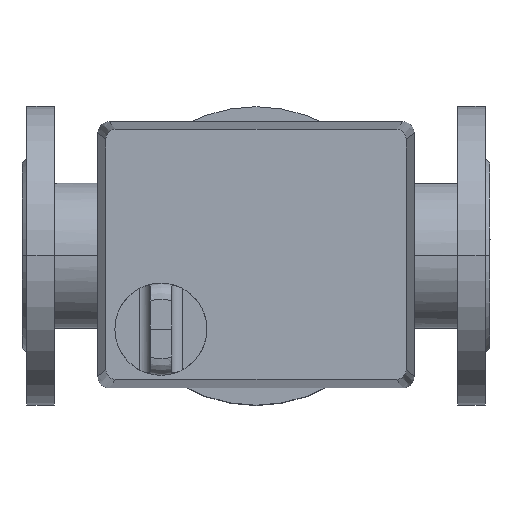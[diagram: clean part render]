
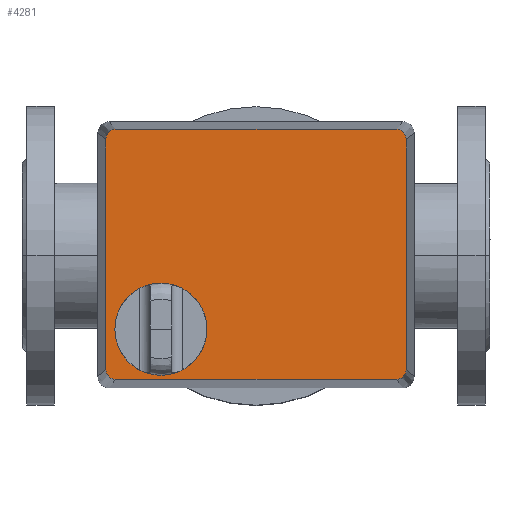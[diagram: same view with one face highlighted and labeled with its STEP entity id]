
A CAD part, top view. The second image highlights one B-rep face of the part: STEP entity #4281.
In plain terms, the highlighted planar face has unit normal (0, 0, 1).
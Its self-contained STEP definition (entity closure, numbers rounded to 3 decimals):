
#360=LINE('',#7379,#604);
#361=LINE('',#7383,#605);
#362=LINE('',#7387,#606);
#363=LINE('',#7391,#607);
#604=VECTOR('',#5968,304.8);
#605=VECTOR('',#5971,304.8);
#606=VECTOR('',#5974,304.8);
#607=VECTOR('',#5977,304.8);
#1069=FACE_OUTER_BOUND('',#1379,.T.);
#1379=EDGE_LOOP('',(#3562,#3563,#3564,#3565,#3566,#3567,#3568,#3569));
#1684=CIRCLE('',#4786,6.);
#1685=CIRCLE('',#4787,6.);
#1686=CIRCLE('',#4788,6.);
#1687=CIRCLE('',#4789,6.);
#2046=VERTEX_POINT('',#7377);
#2047=VERTEX_POINT('',#7378);
#2048=VERTEX_POINT('',#7380);
#2049=VERTEX_POINT('',#7382);
#2050=VERTEX_POINT('',#7384);
#2051=VERTEX_POINT('',#7386);
#2052=VERTEX_POINT('',#7388);
#2053=VERTEX_POINT('',#7390);
#2566=EDGE_CURVE('',#2046,#2047,#360,.T.);
#2567=EDGE_CURVE('',#2047,#2048,#1684,.T.);
#2568=EDGE_CURVE('',#2048,#2049,#361,.T.);
#2569=EDGE_CURVE('',#2049,#2050,#1685,.T.);
#2570=EDGE_CURVE('',#2050,#2051,#362,.T.);
#2571=EDGE_CURVE('',#2051,#2052,#1686,.T.);
#2572=EDGE_CURVE('',#2052,#2053,#363,.T.);
#2573=EDGE_CURVE('',#2053,#2046,#1687,.T.);
#3562=ORIENTED_EDGE('',*,*,#2566,.T.);
#3563=ORIENTED_EDGE('',*,*,#2567,.T.);
#3564=ORIENTED_EDGE('',*,*,#2568,.T.);
#3565=ORIENTED_EDGE('',*,*,#2569,.T.);
#3566=ORIENTED_EDGE('',*,*,#2570,.T.);
#3567=ORIENTED_EDGE('',*,*,#2571,.T.);
#3568=ORIENTED_EDGE('',*,*,#2572,.T.);
#3569=ORIENTED_EDGE('',*,*,#2573,.T.);
#3873=PLANE('',#4785);
#4281=ADVANCED_FACE('',(#1069),#3873,.T.);
#4785=AXIS2_PLACEMENT_3D('',#7376,#5966,#5967);
#4786=AXIS2_PLACEMENT_3D('',#7381,#5969,#5970);
#4787=AXIS2_PLACEMENT_3D('',#7385,#5972,#5973);
#4788=AXIS2_PLACEMENT_3D('',#7389,#5975,#5976);
#4789=AXIS2_PLACEMENT_3D('',#7392,#5978,#5979);
#5966=DIRECTION('center_axis',(0.,0.,1.));
#5967=DIRECTION('ref_axis',(0.,-1.,0.));
#5968=DIRECTION('',(0.,-1.,0.));
#5969=DIRECTION('center_axis',(0.,0.,1.));
#5970=DIRECTION('ref_axis',(1.,0.,0.));
#5971=DIRECTION('',(1.,0.,0.));
#5972=DIRECTION('center_axis',(0.,0.,1.));
#5973=DIRECTION('ref_axis',(1.,0.,0.));
#5974=DIRECTION('',(0.,1.,0.));
#5975=DIRECTION('center_axis',(0.,0.,1.));
#5976=DIRECTION('ref_axis',(1.,0.,0.));
#5977=DIRECTION('',(-1.,0.,0.));
#5978=DIRECTION('center_axis',(0.,0.,1.));
#5979=DIRECTION('ref_axis',(1.,0.,0.));
#7376=CARTESIAN_POINT('Origin',(0.,0.,
361.));
#7377=CARTESIAN_POINT('',(-77.5,87.,361.));
#7378=CARTESIAN_POINT('',(-77.5,-87.,361.));
#7379=CARTESIAN_POINT('',(-77.5,-87.,361.));
#7380=CARTESIAN_POINT('',(-71.5,-93.,361.));
#7381=CARTESIAN_POINT('Origin',(-71.5,-87.,361.));
#7382=CARTESIAN_POINT('',(71.5,-93.,361.));
#7383=CARTESIAN_POINT('',(71.5,-93.,361.));
#7384=CARTESIAN_POINT('',(77.5,-87.,361.));
#7385=CARTESIAN_POINT('Origin',(71.5,-87.,361.));
#7386=CARTESIAN_POINT('',(77.5,87.,361.));
#7387=CARTESIAN_POINT('',(77.5,87.,361.));
#7388=CARTESIAN_POINT('',(71.5,93.,361.));
#7389=CARTESIAN_POINT('Origin',(71.5,87.,361.));
#7390=CARTESIAN_POINT('',(-71.5,93.,361.));
#7391=CARTESIAN_POINT('',(-71.5,93.,361.));
#7392=CARTESIAN_POINT('Origin',(-71.5,87.,361.));
